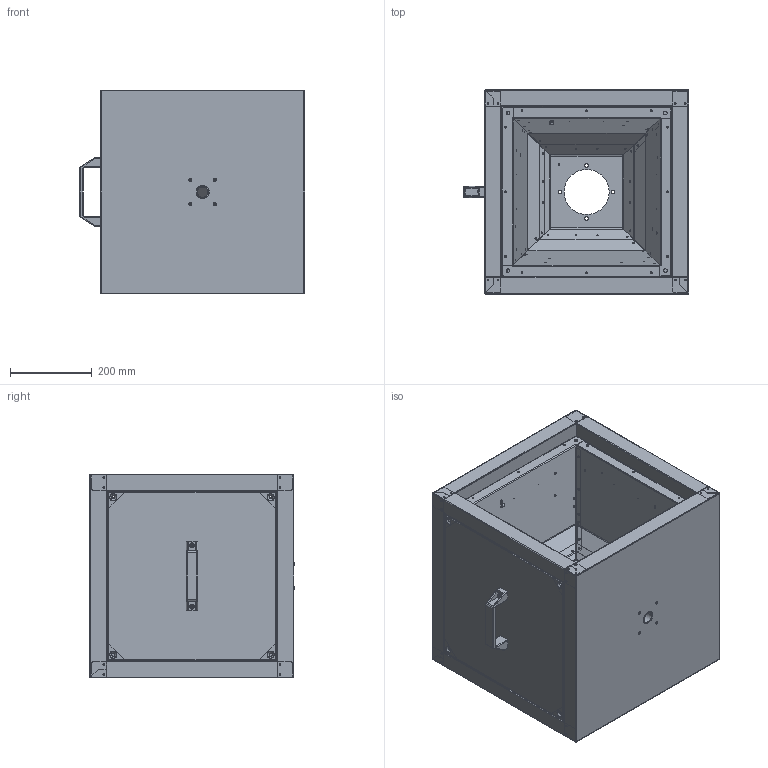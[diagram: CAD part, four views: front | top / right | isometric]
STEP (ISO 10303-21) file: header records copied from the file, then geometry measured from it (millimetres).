
FILE_DESCRIPTION (( 'STEP AP203' ), '1' );
FILE_NAME ('143078-00_MPC250ECT30_step.step', '2018-07-16T13:02:22', ( '' ), ( '' ), 'SwSTEP 2.0', 'SolidWorks 2017', '' );
FILE_SCHEMA (( 'CONFIG_CONTROL_DESIGN' ));
Length unit declared in the file: millimetre
Products named in the file (1): 143078-00_MPC250ECT30_step
Bounding box: 552 x 500.1 x 500 mm (x, y, z)
Surface area: 3807137.3 mm2 (no closed solid volume)
Topology: 0 solids, 143 shells, 1033 faces, 4806 edges, 3858 vertices
Faces by surface type: cylinder 532, plane 408, torus 46, cone 26, bspline 21
Entity records: 50583 total; most frequent: CARTESIAN_POINT 11407, DIRECTION 8438, ORIENTED_EDGE 6281, EDGE_CURVE 4806, VERTEX_POINT 3858, AXIS2_PLACEMENT_3D 2885, VECTOR 2668, LINE 2668
